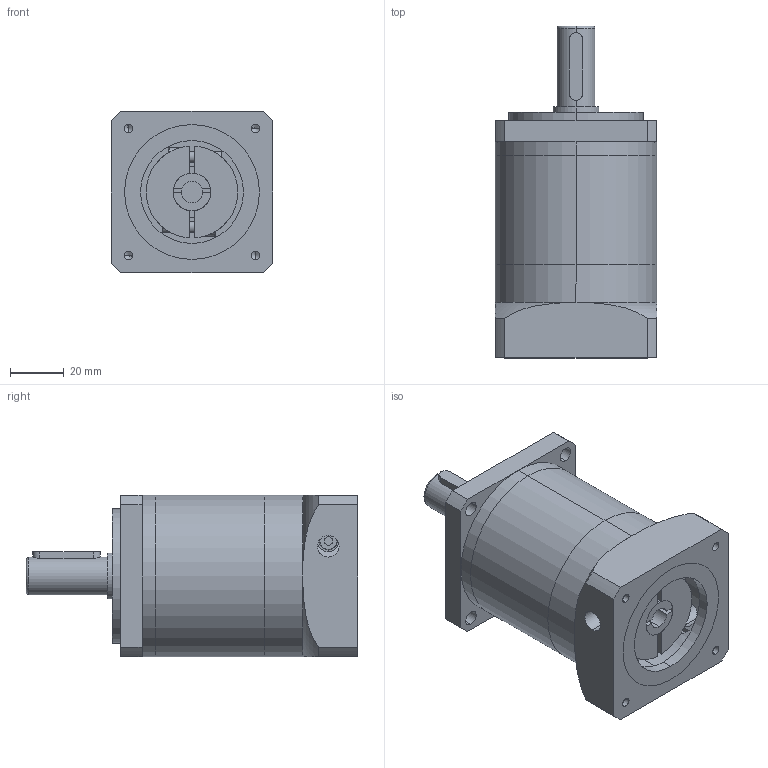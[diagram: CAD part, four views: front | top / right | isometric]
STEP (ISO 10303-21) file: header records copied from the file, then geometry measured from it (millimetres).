
FILE_DESCRIPTION (( 'STEP AP203' ), '1' );
FILE_NAME ('WPF060ﾐﾂ-L1(400W)ﾍ簟ﾎﾍｼ(8-32-38.1-47.14-M4)ｹｶﾉｻｷ.STEP', '2019-08-09T09:28:30', ( 'Windows' ), ( 'Microsoft' ), 'SwSTEP 2.0', 'SolidWorks 2016', '' );
FILE_SCHEMA (( 'CONFIG_CONTROL_DESIGN' ));
Length unit declared in the file: millimetre
Products named in the file (1): WPF060ﾐﾂ-L1(400W)ﾍ簟ﾎﾍｼ(8-32-38.1-47.14-M4)ｹｶﾉｻｷ
Bounding box: 60 x 123 x 60 mm (x, y, z)
Volume: 253856.8 mm3; surface area: 53403.5 mm2
Topology: 6 solids, 6 shells, 191 faces, 450 edges, 281 vertices
Faces by surface type: cylinder 91, plane 76, cone 14, torus 10
Entity records: 6091 total; most frequent: CARTESIAN_POINT 1508, DIRECTION 1000, ORIENTED_EDGE 880, EDGE_CURVE 440, AXIS2_PLACEMENT_3D 397, VERTEX_POINT 281, EDGE_LOOP 233, LINE 206
